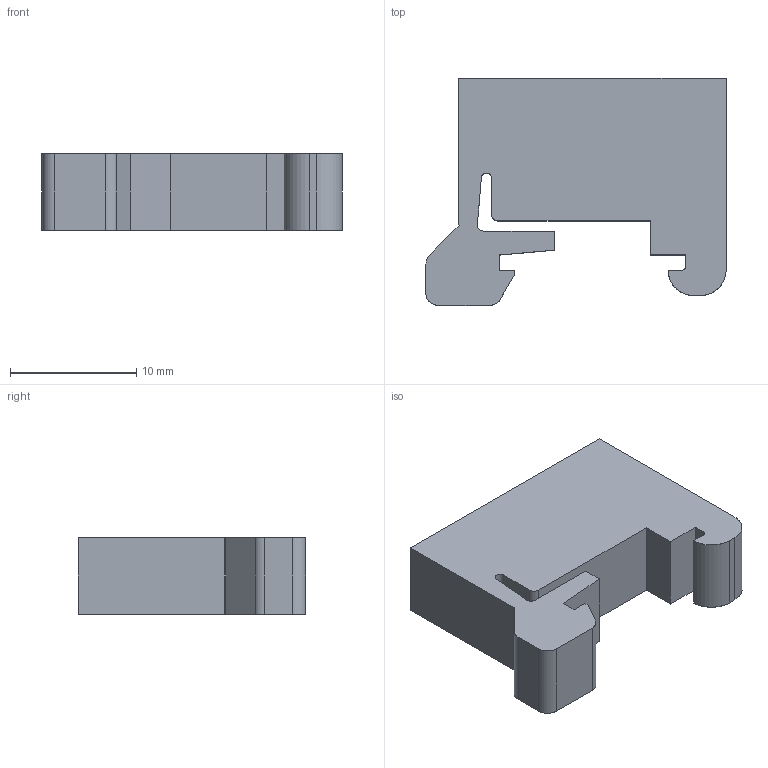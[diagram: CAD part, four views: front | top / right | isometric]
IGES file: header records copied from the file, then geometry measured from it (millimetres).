
Global section: file name: 1421659_e_mk1_select.igs; native system: OneSpace Designer 3D IGES; preprocessor: 13.01  05-Feb-2005; date: 20051108.135703; units: millimetre
Bounding box: 23.8 x 18 x 6.05 mm (x, y, z)
Surface area: 1427 mm2 (no closed solid volume)
Topology: 0 solids, 0 shells, 42 faces, 364 edges, 364 vertices
Faces by surface type: bspline 42
